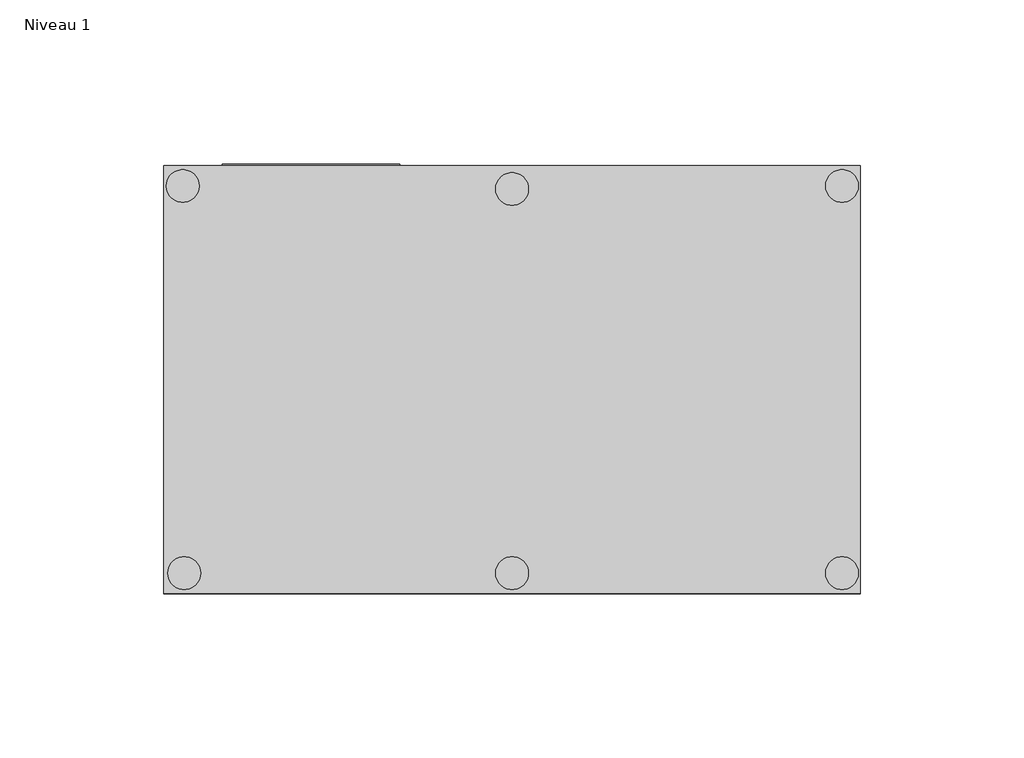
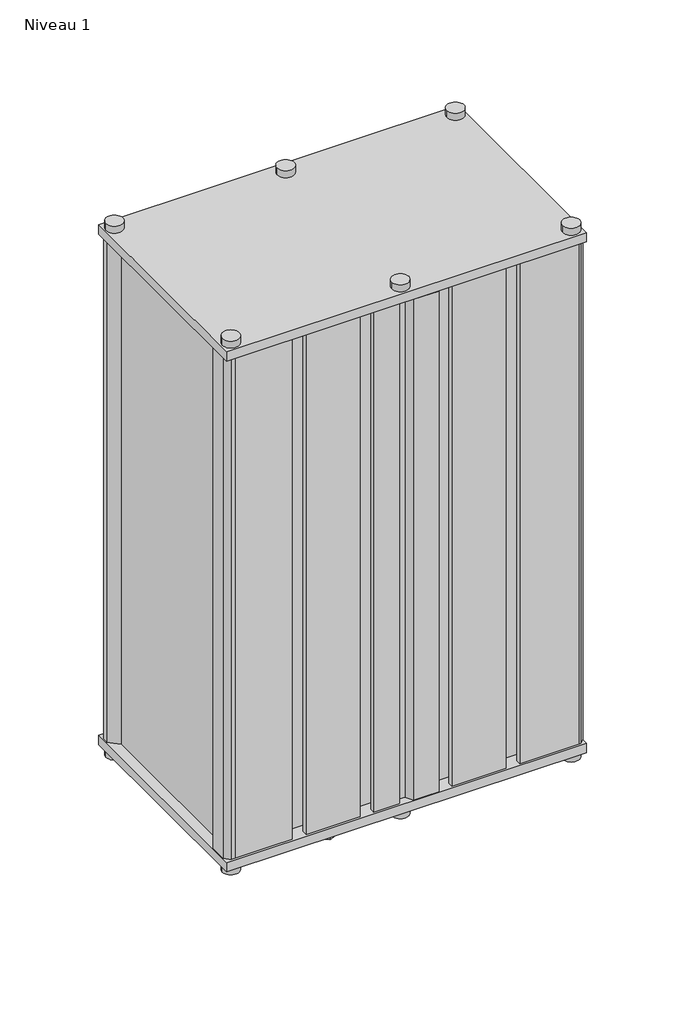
# One storey: 1 proxy.
"""IFC4 building model written with IfcOpenShell, lengths in millimetres."""

from ifc_helpers import new_model, si_unit, origin, place, context, project, spatial, transform, mapped, element, save
from components import a_box_1000_a_box_1000_33609f1f

model = new_model("IFC4")

# Units and contexts
model_context = context("Model", 3, world=origin())
ifc_project = project(units=[si_unit("LENGTHUNIT", "METRE", prefix="MILLI")], contexts=[model_context])

# Site, building, storey
site = spatial("IfcSite", under=ifc_project)
building = spatial("IfcBuilding", under=site)
storey = spatial("IfcBuildingStorey", under=building, Name="Niveau 1", Elevation=0.0)

# Proxy
placement = place(None, origin())
a_box_1000_a_box_1000_shape = a_box_1000_a_box_1000_33609f1f(model_context)
element("IfcBuildingElementProxy", 1, Name="A BOX 1000 : A BOX 1000", ObjectType="A BOX 1000 : A BOX 1000", at=placement, inside=storey, context=model_context, shape_type="MappedRepresentation", body=[
    mapped(a_box_1000_a_box_1000_shape, transform((-5746.1865386, 5099.826384, 0.0), x_axis=(1.0, 0.0, 0.0), y_axis=(0.0, 1.0, 0.0), z_axis=(0.0, 0.0, 1.0))),
])

save(model, "model.ifc")
